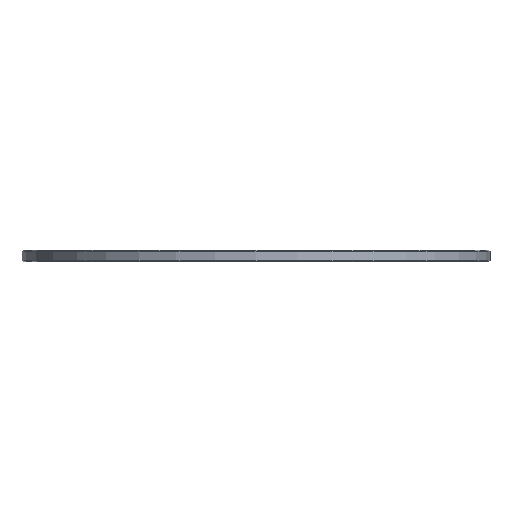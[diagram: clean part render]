
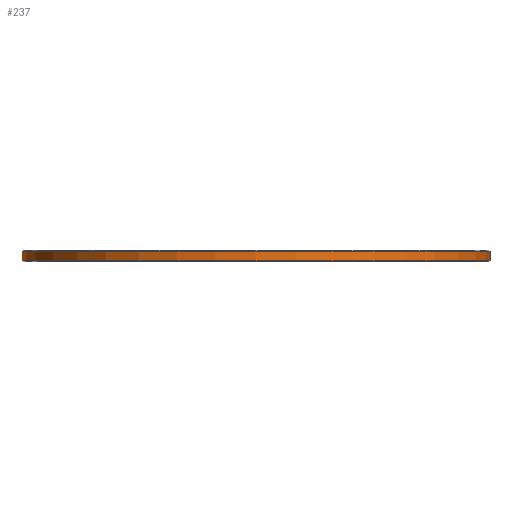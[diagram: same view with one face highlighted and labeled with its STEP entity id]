
A CAD part, front view. The second image highlights one B-rep face of the part: STEP entity #237.
In plain terms, the highlighted cylindrical face has radius 200 mm (diameter 400 mm), a full revolution.
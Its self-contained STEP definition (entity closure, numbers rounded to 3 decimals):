
#190=CYLINDRICAL_SURFACE('',#2173,200.);
#237=ADVANCED_FACE('',(#498,#499),#190,.T.);
#498=FACE_BOUND('',#860,.T.);
#499=FACE_BOUND('',#861,.T.);
#860=EDGE_LOOP('',(#1232));
#861=EDGE_LOOP('',(#1233));
#1232=ORIENTED_EDGE('',*,*,#1804,.T.);
#1233=ORIENTED_EDGE('',*,*,#1805,.T.);
#1616=VERTEX_POINT('',#3256);
#1617=VERTEX_POINT('',#3258);
#1804=EDGE_CURVE('',#1616,#1616,#1988,.T.);
#1805=EDGE_CURVE('',#1617,#1617,#1989,.T.);
#1988=CIRCLE('',#2171,200.);
#1989=CIRCLE('',#2172,200.);
#2171=AXIS2_PLACEMENT_3D('',#3255,#2594,#2595);
#2172=AXIS2_PLACEMENT_3D('',#3257,#2596,#2597);
#2173=AXIS2_PLACEMENT_3D('',#3259,#2598,#2599);
#2594=DIRECTION('',(0.,0.,1.));
#2595=DIRECTION('',(-1.,0.,0.));
#2596=DIRECTION('',(0.,0.,-1.));
#2597=DIRECTION('',(1.,0.,0.));
#2598=DIRECTION('',(0.,0.,1.));
#2599=DIRECTION('',(1.,0.,0.));
#3255=CARTESIAN_POINT('',(0.,0.,1.));
#3256=CARTESIAN_POINT('',(-200.,0.,1.));
#3257=CARTESIAN_POINT('',(0.,0.,9.));
#3258=CARTESIAN_POINT('',(200.,0.,9.));
#3259=CARTESIAN_POINT('',(0.,0.,0.));
